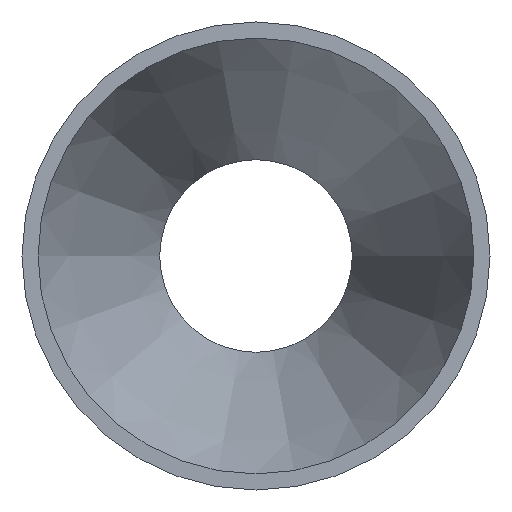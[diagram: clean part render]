
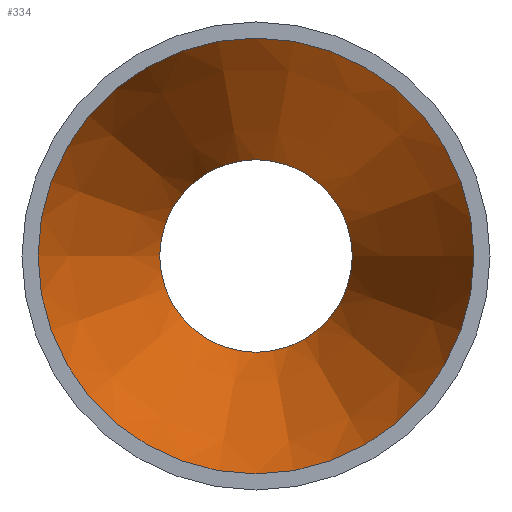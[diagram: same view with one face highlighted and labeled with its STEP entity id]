
A CAD part, left-side view. The second image highlights one B-rep face of the part: STEP entity #334.
In plain terms, the highlighted conical face has half-angle 20.15 degrees and reference radius 29.845 mm.
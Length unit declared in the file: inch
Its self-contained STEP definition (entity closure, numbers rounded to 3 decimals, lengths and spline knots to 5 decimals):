
#66=FACE_OUTER_BOUND('',#82,.T.);
#82=EDGE_LOOP('',(#235,#236,#237,#238,#239,#240));
#104=LINE('',#580,#114);
#114=VECTOR('',#447,1.175);
#127=CIRCLE('',#375,0.72);
#128=CIRCLE('',#376,1.63);
#129=CIRCLE('',#377,1.63);
#130=CIRCLE('',#378,0.72);
#159=VERTEX_POINT('',#576);
#160=VERTEX_POINT('',#577);
#161=VERTEX_POINT('',#579);
#162=VERTEX_POINT('',#581);
#192=EDGE_CURVE('',#159,#160,#127,.T.);
#193=EDGE_CURVE('',#160,#161,#104,.T.);
#194=EDGE_CURVE('',#162,#161,#128,.T.);
#195=EDGE_CURVE('',#161,#162,#129,.T.);
#196=EDGE_CURVE('',#160,#159,#130,.T.);
#235=ORIENTED_EDGE('',*,*,#192,.T.);
#236=ORIENTED_EDGE('',*,*,#193,.T.);
#237=ORIENTED_EDGE('',*,*,#194,.F.);
#238=ORIENTED_EDGE('',*,*,#195,.F.);
#239=ORIENTED_EDGE('',*,*,#193,.F.);
#240=ORIENTED_EDGE('',*,*,#196,.T.);
#314=CONICAL_SURFACE('',#374,1.175,0.352);
#334=ADVANCED_FACE('',(#66),#314,.F.);
#374=AXIS2_PLACEMENT_3D('',#575,#443,#444);
#375=AXIS2_PLACEMENT_3D('',#578,#445,#446);
#376=AXIS2_PLACEMENT_3D('',#582,#448,#449);
#377=AXIS2_PLACEMENT_3D('',#583,#450,#451);
#378=AXIS2_PLACEMENT_3D('',#584,#452,#453);
#443=DIRECTION('center_axis',(-1.,0.,0.));
#444=DIRECTION('ref_axis',(0.,1.,0.));
#445=DIRECTION('center_axis',(1.,0.,0.));
#446=DIRECTION('ref_axis',(0.,1.,0.));
#447=DIRECTION('',(-0.939,-0.344,0.));
#448=DIRECTION('center_axis',(1.,0.,0.));
#449=DIRECTION('ref_axis',(0.,1.,0.));
#450=DIRECTION('center_axis',(1.,0.,0.));
#451=DIRECTION('ref_axis',(0.,1.,0.));
#452=DIRECTION('center_axis',(1.,0.,0.));
#453=DIRECTION('ref_axis',(0.,1.,0.));
#575=CARTESIAN_POINT('Origin',(2.5,0.,0.));
#576=CARTESIAN_POINT('',(3.74,0.72,0.));
#577=CARTESIAN_POINT('',(3.74,-0.72,0.));
#578=CARTESIAN_POINT('Origin',(3.74,0.,0.));
#579=CARTESIAN_POINT('',(1.26,-1.63,0.));
#580=CARTESIAN_POINT('',(2.5,-1.175,0.));
#581=CARTESIAN_POINT('',(1.26,1.63,0.));
#582=CARTESIAN_POINT('Origin',(1.26,0.,0.));
#583=CARTESIAN_POINT('Origin',(1.26,0.,0.));
#584=CARTESIAN_POINT('Origin',(3.74,0.,0.));
